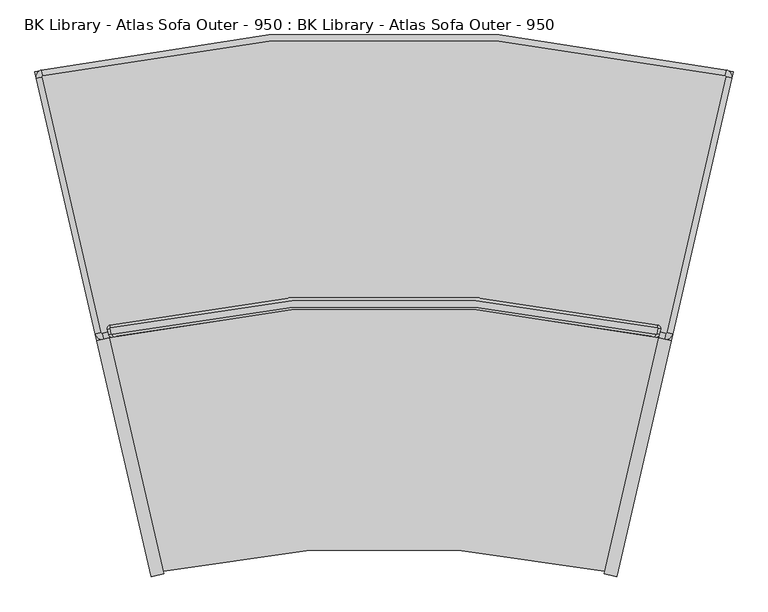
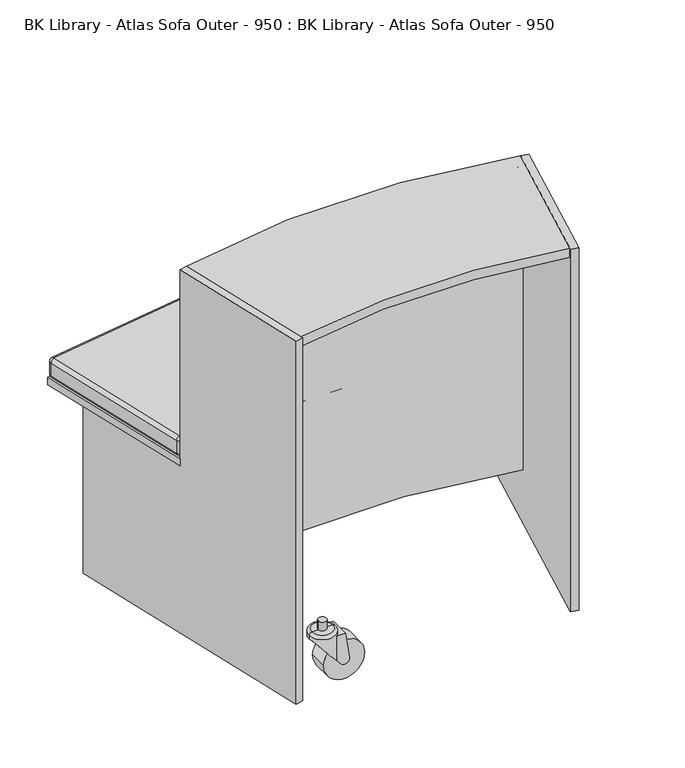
"""IFC4 building model written with IfcOpenShell, lengths in millimetres: furniture geometry, BK Library - Atlas Sofa Outer - 950 : BK Library - Atlas Sofa Outer - 950."""

from ifc_helpers import new_model, si_unit, point, frame, frame_2d, origin, place, context, project, spatial, polyline, circle_curve, ellipse_curve, trimmed, segment, composite_curve, outline, extrude, source, transform, mapped, element, save
from ifc_brep_helpers import plane_surface, cylinder_surface, revolved_surface, advanced_brep


def bk_library_atlas_sofa_outer_950_bk_library_atlas_sofa_outer_a1be0d46(model_context):
    return source(origin(), model_context, "Body", "SolidModel", [
        advanced_brep(
        [(403.7139871, 34.2467546, 912.6999998), (404.9104332, 34.9971014, 912.6999998), (406.7463468, 42.9588262, 912.6999998), (405.9919545, 44.1590138, 912.6999998), (-405.9919545, 44.1590138, 912.6999998), (-406.7463468, 42.9588262, 912.6999998), (-404.9104332, 34.9971014, 912.6999998), (-403.7139871, 34.2467546, 912.6999998), (404.9104332, 34.9971014, 512.6999998), (403.7139871, 34.2467546, 512.6999998), (-403.7139871, 34.2467546, 512.6999998), (-404.9104332, 34.9971014, 512.6999998), (-406.7463468, 42.9588262, 512.6999998), (-405.9919545, 44.1590138, 512.6999998), (405.9919545, 44.1590138, 512.6999998), (406.7463468, 42.9588262, 512.6999998), (408.8081489, 34.0983176, 908.6999998), (402.8259182, 30.3465836, 908.6999998), (402.8259182, 30.3465836, 516.6999998), (408.8081489, 34.0983176, 516.6999998), (410.6440625, 42.0600424, 908.6999998), (410.6440625, 42.0600424, 516.6999998), (406.872101, 48.0609802, 908.6999998), (406.872101, 48.0609802, 516.6999998), (-406.872101, 48.0609802, 908.6999998), (-406.872101, 48.0609802, 516.6999998), (-410.6440625, 42.0600424, 908.6999998), (-410.6440625, 42.0600424, 516.6999998), (-408.8081489, 34.0983176, 908.6999998), (-408.8081489, 34.0983176, 516.6999998), (-402.8259182, 30.3465836, 908.6999998), (-402.8259182, 30.3465836, 516.6999998)],
        [
            (0, 1, circle_curve(frame((403.9360043, 35.2217973, 912.6999998), z_axis=(0.0, 0.0, 1.0), x_axis=(-0.22201720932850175, -0.9750427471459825, 0.0)), 1.0)),
            (1, 2),
            (2, 3, circle_curve(frame((405.7719179, 43.1835222, 912.6999998), z_axis=(0.0, 0.0, 1.0), x_axis=(0.9744289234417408, -0.22469595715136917, 0.0)), 1.0)),
            (3, 4, circle_curve(frame((0.0, -1755.7311313, 912.6999998), z_axis=(0.0, 0.0, 1.0), x_axis=(0.22003662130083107, 0.9754916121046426, 0.0)), 1845.1108372)),
            (4, 5, circle_curve(frame((-405.7719179, 43.1835222, 912.6999998), z_axis=(0.0, 0.0, 1.0), x_axis=(-0.22003662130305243, 0.9754916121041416, 0.0)), 1.0)),
            (5, 6),
            (6, 7, circle_curve(frame((-403.9360043, 35.2217973, 912.6999998), z_axis=(0.0, 0.0, 1.0), x_axis=(-0.97442892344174, -0.22469595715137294, 0.0)), 1.0)),
            (7, 0, circle_curve(frame((0.0, -1738.7617261, 912.6999998), z_axis=(0.0, 0.0, -1.0), x_axis=(-0.2220172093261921, 0.9750427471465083, 0.0)), 1818.3905125)),
            (8, 9, circle_curve(frame((403.9360043, 35.2217973, 512.6999998), z_axis=(0.0, 0.0, -1.0), x_axis=(-0.22201720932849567, -0.9750427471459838, 0.0)), 1.0)),
            (9, 10, circle_curve(frame((0.0, -1738.7617261, 512.6999998), z_axis=(0.0, 0.0, 1.0), x_axis=(-0.2220172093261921, 0.9750427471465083, 0.0)), 1818.3905125)),
            (10, 11, circle_curve(frame((-403.9360043, 35.2217973, 512.6999998), z_axis=(0.0, 0.0, -1.0), x_axis=(-0.97442892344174, -0.22469595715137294, 0.0)), 1.0)),
            (11, 12),
            (12, 13, circle_curve(frame((-405.7719179, 43.1835222, 512.6999998), z_axis=(0.0, 0.0, -1.0), x_axis=(-0.22003662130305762, 0.9754916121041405, 0.0)), 1.0)),
            (13, 14, circle_curve(frame((0.0, -1755.7311313, 512.6999998), z_axis=(0.0, 0.0, -1.0), x_axis=(0.22003662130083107, 0.9754916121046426, 0.0)), 1845.1108372)),
            (14, 15, circle_curve(frame((405.7719179, 43.1835222, 512.6999998), z_axis=(0.0, 0.0, -1.0), x_axis=(0.9744289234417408, -0.22469595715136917, 0.0)), 1.0)),
            (15, 8),
            (16, 17, circle_curve(frame((403.9360043, 35.2217973, 908.6999998), z_axis=(0.0, 0.0, -1.0), x_axis=(1.0, 0.0, 0.0)), 5.0)),
            (17, 18),
            (18, 19, circle_curve(frame((403.9360043, 35.2217973, 516.6999998), z_axis=(0.0, 0.0, 1.0), x_axis=(1.0, 0.0, 0.0)), 5.0)),
            (19, 16),
            (20, 16),
            (19, 21),
            (21, 20),
            (22, 20, circle_curve(frame((405.7719179, 43.1835222, 908.6999998), z_axis=(0.0, 0.0, -1.0), x_axis=(1.0, 0.0, 0.0)), 5.0)),
            (21, 23, circle_curve(frame((405.7719179, 43.1835222, 516.6999998), z_axis=(0.0, 0.0, 1.0), x_axis=(1.0, 0.0, 0.0)), 5.0)),
            (23, 22),
            (24, 22, circle_curve(frame((0.0, -1755.7311313, 908.6999998), z_axis=(0.0, 0.0, -1.0), x_axis=(1.0, 0.0, 0.0)), 1849.1108372)),
            (23, 25, circle_curve(frame((0.0, -1755.7311313, 516.6999998), z_axis=(0.0, 0.0, 1.0), x_axis=(1.0, 0.0, 0.0)), 1849.1108372)),
            (25, 24),
            (26, 24, circle_curve(frame((-405.7719179, 43.1835222, 908.6999998), z_axis=(0.0, 0.0, -1.0), x_axis=(1.0, 0.0, 0.0)), 5.0)),
            (25, 27, circle_curve(frame((-405.7719179, 43.1835222, 516.6999998), z_axis=(0.0, 0.0, 1.0), x_axis=(1.0, 0.0, 0.0)), 5.0)),
            (27, 26),
            (28, 26),
            (27, 29),
            (29, 28),
            (30, 28, circle_curve(frame((-403.9360043, 35.2217973, 908.6999998), z_axis=(0.0, 0.0, -1.0), x_axis=(1.0, 0.0, 0.0)), 5.0)),
            (29, 31, circle_curve(frame((-403.9360043, 35.2217973, 516.6999998), z_axis=(0.0, 0.0, 1.0), x_axis=(1.0, 0.0, 0.0)), 5.0)),
            (31, 30),
            (17, 30, circle_curve(frame((0.0, -1738.7617261, 908.6999998), z_axis=(0.0, 0.0, 1.0), x_axis=(1.0, 0.0, 0.0)), 1814.3905125)),
            (31, 18, circle_curve(frame((0.0, -1738.7617261, 516.6999998), z_axis=(0.0, 0.0, -1.0), x_axis=(1.0, 0.0, 0.0)), 1814.3905125)),
            (16, 1, circle_curve(frame((404.9104332, 34.9971014, 908.6999998), z_axis=(-0.22469595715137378, -0.9744289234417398, 0.0), x_axis=(-0.9744289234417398, 0.22469595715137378, 0.0)), 4.0)),
            (0, 17, circle_curve(frame((403.7139871, 34.2467546, 908.6999998), z_axis=(0.9750427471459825, -0.2220172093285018, 0.0), x_axis=(0.2220172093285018, 0.9750427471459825, 0.0)), 4.0)),
            (20, 2, circle_curve(frame((406.7463468, 42.9588262, 908.6999998), z_axis=(-0.22469595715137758, -0.974428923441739, 0.0), x_axis=(-0.974428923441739, 0.22469595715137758, 0.0)), 4.0)),
            (22, 3, circle_curve(frame((405.9919545, 44.1590138, 908.6999998), z_axis=(0.9754916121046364, -0.22003662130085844, 0.0), x_axis=(-0.22003662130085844, -0.9754916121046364, 0.0)), 4.0)),
            (24, 4, circle_curve(frame((-405.9919545, 44.1590138, 908.6999998), z_axis=(0.9754916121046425, 0.22003662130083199, 0.0), x_axis=(0.22003662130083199, -0.9754916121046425, 0.0)), 4.0)),
            (26, 5, circle_curve(frame((-406.7463468, 42.9588262, 908.6999998), z_axis=(-0.22469595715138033, 0.9744289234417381, 0.0), x_axis=(0.9744289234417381, 0.22469595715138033, 0.0)), 4.0)),
            (28, 6, circle_curve(frame((-404.9104332, 34.9971014, 908.6999998), z_axis=(-0.22469595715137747, 0.974428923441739, 0.0), x_axis=(0.974428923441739, 0.22469595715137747, 0.0)), 4.0)),
            (30, 7, circle_curve(frame((-403.7139871, 34.2467546, 908.6999998), z_axis=(-0.9750427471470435, -0.22201720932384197, 0.0), x_axis=(-0.22201720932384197, 0.9750427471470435, 0.0)), 4.0)),
            (8, 19, circle_curve(frame((404.9104332, 34.9971014, 516.6999998), z_axis=(-0.22469595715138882, -0.9744289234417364, 0.0), x_axis=(-0.9744289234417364, 0.22469595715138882, 0.0)), 4.0)),
            (18, 9, circle_curve(frame((403.7139871, 34.2467546, 516.6999998), z_axis=(0.9750427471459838, -0.22201720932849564, 0.0), x_axis=(0.22201720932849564, 0.9750427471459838, 0.0)), 4.0)),
            (15, 21, circle_curve(frame((406.7463468, 42.9588262, 516.6999998), z_axis=(-0.2246959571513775, -0.974428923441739, 0.0), x_axis=(-0.974428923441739, 0.2246959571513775, 0.0)), 4.0)),
            (14, 23, circle_curve(frame((405.9919545, 44.1590138, 516.6999998), z_axis=(0.9754916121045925, -0.2200366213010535, 0.0), x_axis=(-0.2200366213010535, -0.9754916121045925, 0.0)), 4.0)),
            (13, 25, circle_curve(frame((-405.9919545, 44.1590138, 516.6999998), z_axis=(0.9754916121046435, 0.22003662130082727, 0.0), x_axis=(0.22003662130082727, -0.9754916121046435, 0.0)), 4.0)),
            (12, 27, circle_curve(frame((-406.7463468, 42.9588262, 516.6999998), z_axis=(-0.22469595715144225, 0.974428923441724, 0.0), x_axis=(0.974428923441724, 0.22469595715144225, 0.0)), 4.0)),
            (11, 29, circle_curve(frame((-404.9104332, 34.9971014, 516.6999998), z_axis=(-0.22469595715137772, 0.974428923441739, 0.0), x_axis=(0.974428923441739, 0.22469595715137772, 0.0)), 4.0)),
            (10, 31, circle_curve(frame((-403.7139871, 34.2467546, 516.6999998), z_axis=(-0.9750427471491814, -0.22201720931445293, 0.0), x_axis=(-0.22201720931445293, 0.9750427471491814, 0.0)), 4.0)),
        ],
        [
            plane_surface(frame((408.9360043, 35.2217973, 912.6999998), z_axis=(0.0, 0.0, 1.0), x_axis=(0.0, 1.0, 0.0))),
            plane_surface(frame((408.9360043, 35.2217973, 512.6999998), z_axis=(0.0, 0.0, -1.0), x_axis=(0.0, -1.0, 0.0))),
            cylinder_surface(frame((403.9360043, 35.2217973, 512.6999998), z_axis=(0.0, 0.0, 1.0), x_axis=(1.0, 0.0, 0.0)), 5.0),
            plane_surface(frame((408.8081489, 34.0983176, 912.6999998), z_axis=(0.9744289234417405, -0.22469595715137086, 0.0), x_axis=(0.0, 0.0, -1.0))),
            cylinder_surface(frame((405.7719179, 43.1835222, 512.6999998), z_axis=(0.0, 0.0, 1.0), x_axis=(1.0, 0.0, 0.0)), 5.0),
            cylinder_surface(frame((0.0, -1755.7311313, 512.6999998), z_axis=(0.0, 0.0, 1.0), x_axis=(1.0, 0.0, 0.0)), 1849.1108372),
            cylinder_surface(frame((-405.7719179, 43.1835222, 512.6999998), z_axis=(0.0, 0.0, 1.0), x_axis=(1.0, 0.0, 0.0)), 5.0),
            plane_surface(frame((-410.6440625, 42.0600424, 912.6999998), z_axis=(-0.974428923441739, -0.2246959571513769, 0.0), x_axis=(0.0, 0.0, -1.0))),
            cylinder_surface(frame((-403.9360043, 35.2217973, 512.6999998), z_axis=(0.0, 0.0, 1.0), x_axis=(1.0, 0.0, 0.0)), 5.0),
            revolved_surface(polyline([(1814.3905125, -1738.7617261, 516.6999998), (1814.3905125, -1738.7617261, 908.6999998)]), (0.0, -1738.7617261, 512.6999998), (0.0, 0.0, -1.0)),
            revolved_surface(trimmed(ellipse_curve(frame((403.7139871, 34.2467546, 908.6999998), z_axis=(-0.9750427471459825, 0.2220172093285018, 0.0), x_axis=(0.2220172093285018, 0.9750427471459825, 0.0)), 4.0, 4.0), [point((402.8259182, 30.3465836, 908.6999998))], [point((403.7139871, 34.2467546, 912.6999998))], True, "CARTESIAN"), (403.9360043, 35.2217973, 0.0), (0.0, 0.0, 1.0)),
            cylinder_surface(frame((404.9104332, 34.9971014, 908.6999998), z_axis=(0.22469595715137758, 0.974428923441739, 0.0), x_axis=(-0.974428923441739, 0.22469595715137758, 0.0)), 4.0),
            revolved_surface(trimmed(ellipse_curve(frame((406.7463468, 42.9588262, 908.6999998), z_axis=(-0.22469595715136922, -0.9744289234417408, 0.0), x_axis=(-0.9744289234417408, 0.22469595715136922, 0.0)), 4.0, 4.0), [point((410.6440625, 42.0600424, 908.6999998))], [point((406.7463468, 42.9588262, 912.6999998))], True, "CARTESIAN"), (405.7719179, 43.1835222, 0.0), (0.0, 0.0, 1.0)),
            revolved_surface(trimmed(ellipse_curve(frame((405.9919545, 44.1590138, 908.6999998), z_axis=(0.9754916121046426, -0.2200366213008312, 0.0), x_axis=(-0.2200366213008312, -0.9754916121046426, 0.0)), 4.0, 4.0), [point((406.872101, 48.0609802, 908.6999998))], [point((405.9919545, 44.1590138, 912.6999998))], True, "CARTESIAN"), (0.0, -1755.7311313, 0.0), (0.0, 0.0, 1.0)),
            revolved_surface(trimmed(ellipse_curve(frame((-405.9919545, 44.1590138, 908.6999998), z_axis=(0.9754916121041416, 0.22003662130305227, 0.0), x_axis=(0.22003662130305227, -0.9754916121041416, 0.0)), 4.0, 4.0), [point((-406.872101, 48.0609802, 908.6999998))], [point((-405.9919545, 44.1590138, 912.6999998))], True, "CARTESIAN"), (-405.7719179, 43.1835222, 0.0), (0.0, 0.0, 1.0)),
            cylinder_surface(frame((-406.7463468, 42.9588262, 908.6999998), z_axis=(0.22469595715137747, -0.974428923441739, 0.0), x_axis=(0.974428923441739, 0.22469595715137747, 0.0)), 4.0),
            revolved_surface(trimmed(ellipse_curve(frame((-404.9104332, 34.9971014, 908.6999998), z_axis=(-0.2246959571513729, 0.97442892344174, 0.0), x_axis=(0.97442892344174, 0.2246959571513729, 0.0)), 4.0, 4.0), [point((-408.8081489, 34.0983176, 908.6999998))], [point((-404.9104332, 34.9971014, 912.6999998))], True, "CARTESIAN"), (-403.9360043, 35.2217973, 0.0), (0.0, 0.0, 1.0)),
            revolved_surface(trimmed(ellipse_curve(frame((-403.7139871, 34.2467546, 908.6999998), z_axis=(-0.9750427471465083, -0.22201720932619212, 0.0), x_axis=(-0.22201720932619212, 0.9750427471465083, 0.0)), 4.0, 4.0), [point((-402.8259182, 30.3465836, 908.6999998))], [point((-403.7139871, 34.2467546, 912.6999998))], True, "CARTESIAN"), (0.0, -1738.7617261, 0.0), (0.0, 0.0, -1.0)),
            revolved_surface(trimmed(ellipse_curve(frame((403.7139871, 34.2467546, 516.6999998), z_axis=(-0.9750427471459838, 0.22201720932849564, 0.0), x_axis=(0.22201720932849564, 0.9750427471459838, 0.0)), 4.0, 4.0), [point((403.7139871, 34.2467546, 512.6999998))], [point((402.8259182, 30.3465836, 516.6999998))], True, "CARTESIAN"), (403.9360043, 35.2217973, 1425.3999996), (0.0, 0.0, 1.0)),
            cylinder_surface(frame((404.9104332, 34.9971014, 516.6999998), z_axis=(0.2246959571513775, 0.974428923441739, 0.0), x_axis=(-0.974428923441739, 0.2246959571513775, 0.0)), 4.0),
            revolved_surface(trimmed(ellipse_curve(frame((406.7463468, 42.9588262, 516.6999998), z_axis=(-0.22469595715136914, -0.9744289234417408, 0.0), x_axis=(-0.9744289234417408, 0.22469595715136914, 0.0)), 4.0, 4.0), [point((406.7463468, 42.9588262, 512.6999998))], [point((410.6440625, 42.0600424, 516.6999998))], True, "CARTESIAN"), (405.7719179, 43.1835222, 1425.3999996), (0.0, 0.0, 1.0)),
            revolved_surface(trimmed(ellipse_curve(frame((405.9919545, 44.1590138, 516.6999998), z_axis=(0.9754916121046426, -0.22003662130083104, 0.0), x_axis=(-0.22003662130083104, -0.9754916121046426, 0.0)), 4.0, 4.0), [point((405.9919545, 44.1590138, 512.6999998))], [point((406.872101, 48.0609802, 516.6999998))], True, "CARTESIAN"), (0.0, -1755.7311313, 1425.3999996), (0.0, 0.0, 1.0)),
            revolved_surface(trimmed(ellipse_curve(frame((-405.9919545, 44.1590138, 516.6999998), z_axis=(0.9754916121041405, 0.2200366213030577, 0.0), x_axis=(0.2200366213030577, -0.9754916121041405, 0.0)), 4.0, 4.0), [point((-405.9919545, 44.1590138, 512.6999998))], [point((-406.872101, 48.0609802, 516.6999998))], True, "CARTESIAN"), (-405.7719179, 43.1835222, 1425.3999996), (0.0, 0.0, 1.0)),
            cylinder_surface(frame((-406.7463468, 42.9588262, 516.6999998), z_axis=(0.22469595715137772, -0.974428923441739, 0.0), x_axis=(0.974428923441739, 0.22469595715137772, 0.0)), 4.0),
            revolved_surface(trimmed(ellipse_curve(frame((-404.9104332, 34.9971014, 516.6999998), z_axis=(-0.22469595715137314, 0.97442892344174, 0.0), x_axis=(0.97442892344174, 0.22469595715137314, 0.0)), 4.0, 4.0), [point((-404.9104332, 34.9971014, 512.6999998))], [point((-408.8081489, 34.0983176, 516.6999998))], True, "CARTESIAN"), (-403.9360043, 35.2217973, 1425.3999996), (0.0, 0.0, 1.0)),
            revolved_surface(trimmed(ellipse_curve(frame((-403.7139871, 34.2467546, 516.6999998), z_axis=(-0.9750427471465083, -0.22201720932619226, 0.0), x_axis=(-0.22201720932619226, 0.9750427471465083, 0.0)), 4.0, 4.0), [point((-403.7139871, 34.2467546, 512.6999998))], [point((-402.8259182, 30.3465836, 516.6999998))], True, "CARTESIAN"), (0.0, -1738.7617261, 1425.3999996), (0.0, 0.0, -1.0)),
        ],
        [
            (0, [[1, 2, 3, 4, 5, 6, 7, 8]]),
            (1, [[9, 10, 11, 12, 13, 14, 15, 16]]),
            (2, [[17, 18, 19, 20]]),
            (3, [[21, -20, 22, 23]]),
            (4, [[24, -23, 25, 26]]),
            (5, [[27, -26, 28, 29]]),
            (6, [[30, -29, 31, 32]]),
            (7, [[33, -32, 34, 35]]),
            (8, [[36, -35, 37, 38]]),
            (9, [[39, -38, 40, -18]]),
            (10, [[41, -1, 42, -17]]),
            (11, [[-41, -21, 43, -2]]),
            (12, [[-43, -24, 44, -3]]),
            (13, [[-44, -27, 45, -4]]),
            (14, [[-45, -30, 46, -5]]),
            (15, [[-46, -33, 47, -6]]),
            (16, [[-47, -36, 48, -7]]),
            (17, [[-42, -8, -48, -39]]),
            (18, [[49, -19, 50, -9]]),
            (19, [[-49, -16, 51, -22]]),
            (20, [[-51, -15, 52, -25]]),
            (21, [[-52, -14, 53, -28]]),
            (22, [[-53, -13, 54, -31]]),
            (23, [[-54, -12, 55, -34]]),
            (24, [[-55, -11, 56, -37]]),
            (25, [[-50, -40, -56, -10]]),
        ],
    ),
        advanced_brep(
        [(-419.6774617, 36.7301974, 512.6999998), (-418.4783368, 35.9804644, 512.6999998), (-409.7084765, 38.002728, 512.6999998), (409.7084765, 38.002728, 512.6999998), (418.4783368, 35.9804644, 512.6999998), (419.6774617, 36.7301974, 512.6999998), (507.3202, 416.806547, 512.6999998), (506.5732105, 418.0050352, 512.6999998), (-506.5732105, 418.0050352, 512.6999998), (-507.3202, 416.806547, 512.6999998), (-418.4783368, 35.9804644, 462.6999998), (-419.6774617, 36.7301974, 462.6999998), (-507.3202, 416.806547, 462.6999998), (-506.5732105, 418.0050352, 462.6999998), (506.5732105, 418.0050352, 462.6999998), (507.3202, 416.806547, 462.6999998), (419.6774617, 36.7301974, 462.6999998), (418.4783368, 35.9804644, 462.6999998), (409.7084765, 38.002728, 462.6999998), (-409.7084765, 38.002728, 462.6999998), (-516.0900603, 414.7842834, 503.6999998), (-508.6201649, 426.7691653, 503.6999998), (-508.6201649, 426.7691653, 471.6999998), (-516.0900603, 414.7842834, 471.6999998), (-428.447322, 34.7079338, 503.6999998), (-428.447322, 34.7079338, 471.6999998), (-416.4560732, 27.2106041, 503.6999998), (-416.4560732, 27.2106041, 471.6999998), (-407.6862129, 29.2328677, 503.6999998), (-407.6862129, 29.2328677, 471.6999998), (407.6862129, 29.2328677, 503.6999998), (407.6862129, 29.2328677, 471.6999998), (416.4560732, 27.2106041, 503.6999998), (416.4560732, 27.2106041, 471.6999998), (428.447322, 34.7079338, 503.6999998), (428.447322, 34.7079338, 471.6999998), (516.0900603, 414.7842834, 503.6999998), (516.0900603, 414.7842834, 471.6999998), (508.6201649, 426.7691653, 503.6999998), (508.6201649, 426.7691653, 471.6999998)],
        [
            (0, 1, circle_curve(frame((-418.7030327, 36.9548933, 512.6999998), z_axis=(0.0, 0.0, 1.0), x_axis=(-0.9744289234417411, -0.22469595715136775, 0.0)), 1.0)),
            (1, 2),
            (2, 3, circle_curve(frame((0.0, -1738.7617261, 512.6999998), z_axis=(0.0, 0.0, -1.0), x_axis=(-0.22469595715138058, 0.9744289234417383, 0.0)), 1823.3905125)),
            (3, 4),
            (4, 5, circle_curve(frame((418.7030327, 36.9548933, 512.6999998), z_axis=(0.0, 0.0, 1.0), x_axis=(-0.22469595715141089, -0.9744289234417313, 0.0)), 1.0)),
            (5, 6),
            (6, 7, circle_curve(frame((506.3457711, 417.0312429, 512.6999998), z_axis=(0.0, 0.0, 1.0), x_axis=(0.9744289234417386, -0.2246959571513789, 0.0)), 1.0)),
            (7, 8, circle_curve(frame((0.0, -1750.9115951, 512.6999998), z_axis=(0.0, 0.0, 1.0), x_axis=(0.22743938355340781, 0.9737922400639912, 0.0)), 2227.2888826)),
            (8, 9, circle_curve(frame((-506.3457711, 417.0312429, 512.6999998), z_axis=(0.0, 0.0, 1.0), x_axis=(-0.22743938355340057, 0.9737922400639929, 0.0)), 1.0)),
            (9, 0),
            (10, 11, circle_curve(frame((-418.7030327, 36.9548933, 462.6999998), z_axis=(0.0, 0.0, -1.0), x_axis=(-0.9744289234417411, -0.22469595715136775, 0.0)), 1.0)),
            (11, 12),
            (12, 13, circle_curve(frame((-506.3457711, 417.0312429, 462.6999998), z_axis=(0.0, 0.0, -1.0), x_axis=(-0.22743938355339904, 0.9737922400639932, 0.0)), 1.0)),
            (13, 14, circle_curve(frame((0.0, -1750.9115951, 462.6999998), z_axis=(0.0, 0.0, -1.0), x_axis=(0.22743938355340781, 0.9737922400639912, 0.0)), 2227.2888826)),
            (14, 15, circle_curve(frame((506.3457711, 417.0312429, 462.6999998), z_axis=(0.0, 0.0, -1.0), x_axis=(0.9744289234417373, -0.224695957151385, 0.0)), 1.0)),
            (15, 16),
            (16, 17, circle_curve(frame((418.7030327, 36.9548933, 462.6999998), z_axis=(0.0, 0.0, -1.0), x_axis=(-0.22469595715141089, -0.9744289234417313, 0.0)), 1.0)),
            (17, 18),
            (18, 19, circle_curve(frame((0.0, -1738.7617261, 462.6999998), z_axis=(0.0, 0.0, 1.0), x_axis=(-0.22469595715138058, 0.9744289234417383, 0.0)), 1823.3905125)),
            (19, 10),
            (20, 21, circle_curve(frame((-506.3457711, 417.0312429, 503.6999998), z_axis=(0.0, 0.0, -1.0), x_axis=(1.0, 0.0, 0.0)), 10.0)),
            (21, 22),
            (22, 23, circle_curve(frame((-506.3457711, 417.0312429, 471.6999998), z_axis=(0.0, 0.0, 1.0), x_axis=(1.0, 0.0, 0.0)), 10.0)),
            (23, 20),
            (24, 20),
            (23, 25),
            (25, 24),
            (26, 24, circle_curve(frame((-418.7030327, 36.9548933, 503.6999998), z_axis=(0.0, 0.0, -1.0), x_axis=(1.0, 0.0, 0.0)), 10.0)),
            (25, 27, circle_curve(frame((-418.7030327, 36.9548933, 471.6999998), z_axis=(0.0, 0.0, 1.0), x_axis=(1.0, 0.0, 0.0)), 10.0)),
            (27, 26),
            (28, 26),
            (27, 29),
            (29, 28),
            (30, 28, circle_curve(frame((0.0, -1738.7617261, 503.6999998), z_axis=(0.0, 0.0, 1.0), x_axis=(1.0, 0.0, 0.0)), 1814.3905125)),
            (29, 31, circle_curve(frame((0.0, -1738.7617261, 471.6999998), z_axis=(0.0, 0.0, -1.0), x_axis=(1.0, 0.0, 0.0)), 1814.3905125)),
            (31, 30),
            (32, 30),
            (31, 33),
            (33, 32),
            (34, 32, circle_curve(frame((418.7030327, 36.9548933, 503.6999998), z_axis=(0.0, 0.0, -1.0), x_axis=(1.0, 0.0, 0.0)), 10.0)),
            (33, 35, circle_curve(frame((418.7030327, 36.9548933, 471.6999998), z_axis=(0.0, 0.0, 1.0), x_axis=(1.0, 0.0, 0.0)), 10.0)),
            (35, 34),
            (36, 34),
            (35, 37),
            (37, 36),
            (38, 36, circle_curve(frame((506.3457711, 417.0312429, 503.6999998), z_axis=(0.0, 0.0, -1.0), x_axis=(1.0, 0.0, 0.0)), 10.0)),
            (37, 39, circle_curve(frame((506.3457711, 417.0312429, 471.6999998), z_axis=(0.0, 0.0, 1.0), x_axis=(1.0, 0.0, 0.0)), 10.0)),
            (39, 38),
            (21, 38, circle_curve(frame((0.0, -1750.9115951, 503.6999998), z_axis=(0.0, 0.0, -1.0), x_axis=(1.0, 0.0, 0.0)), 2236.2888826)),
            (39, 22, circle_curve(frame((0.0, -1750.9115951, 471.6999998), z_axis=(0.0, 0.0, 1.0), x_axis=(1.0, 0.0, 0.0)), 2236.2888826)),
            (26, 1, circle_curve(frame((-418.4783368, 35.9804644, 503.6999998), z_axis=(-0.9744289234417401, -0.22469595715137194, 0.0), x_axis=(-0.22469595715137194, 0.9744289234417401, 0.0)), 9.0)),
            (0, 24, circle_curve(frame((-419.6774617, 36.7301974, 503.6999998), z_axis=(0.22469595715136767, -0.9744289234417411, 0.0), x_axis=(0.9744289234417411, 0.22469595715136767, 0.0)), 9.0)),
            (28, 2, circle_curve(frame((-409.7084765, 38.002728, 503.6999998), z_axis=(-0.9744289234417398, -0.2246959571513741, 0.0), x_axis=(-0.2246959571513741, 0.9744289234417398, 0.0)), 9.0)),
            (30, 3, circle_curve(frame((409.7084765, 38.002728, 503.6999998), z_axis=(-0.9744289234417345, 0.22469595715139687, 0.0), x_axis=(0.22469595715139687, 0.9744289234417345, 0.0)), 9.0)),
            (32, 4, circle_curve(frame((418.4783368, 35.9804644, 503.6999998), z_axis=(-0.974428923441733, 0.22469595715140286, 0.0), x_axis=(0.22469595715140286, 0.974428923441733, 0.0)), 9.0)),
            (34, 5, circle_curve(frame((419.6774617, 36.7301974, 503.6999998), z_axis=(-0.22469595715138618, -0.9744289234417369, 0.0), x_axis=(-0.9744289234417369, 0.22469595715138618, 0.0)), 9.0)),
            (36, 6, circle_curve(frame((507.3202, 416.806547, 503.6999998), z_axis=(-0.22469595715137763, -0.9744289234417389, 0.0), x_axis=(-0.9744289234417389, 0.22469595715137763, 0.0)), 9.0)),
            (38, 7, circle_curve(frame((506.5732105, 418.0050352, 503.6999998), z_axis=(0.9737922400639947, -0.22743938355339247, 0.0), x_axis=(-0.22743938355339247, -0.9737922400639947, 0.0)), 9.0)),
            (21, 8, circle_curve(frame((-506.5732105, 418.0050352, 503.6999998), z_axis=(0.9737922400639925, 0.22743938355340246, 0.0), x_axis=(0.22743938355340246, -0.9737922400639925, 0.0)), 9.0)),
            (20, 9, circle_curve(frame((-507.3202, 416.806547, 503.6999998), z_axis=(-0.22469595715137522, 0.9744289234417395, 0.0), x_axis=(0.9744289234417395, 0.22469595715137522, 0.0)), 9.0)),
            (10, 27, circle_curve(frame((-418.4783368, 35.9804644, 471.6999998), z_axis=(-0.9744289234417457, -0.22469595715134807, 0.0), x_axis=(-0.22469595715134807, 0.9744289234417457, 0.0)), 9.0)),
            (25, 11, circle_curve(frame((-419.6774617, 36.7301974, 471.6999998), z_axis=(0.22469595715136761, -0.9744289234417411, 0.0), x_axis=(0.9744289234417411, 0.22469595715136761, 0.0)), 9.0)),
            (19, 29, circle_curve(frame((-409.7084765, 38.002728, 471.6999998), z_axis=(-0.9744289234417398, -0.224695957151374, 0.0), x_axis=(-0.224695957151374, 0.9744289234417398, 0.0)), 9.0)),
            (18, 31, circle_curve(frame((409.7084765, 38.002728, 471.6999998), z_axis=(-0.9744289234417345, 0.22469595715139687, 0.0), x_axis=(0.22469595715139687, 0.9744289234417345, 0.0)), 9.0)),
            (17, 33, circle_curve(frame((418.4783368, 35.9804644, 471.6999998), z_axis=(-0.9744289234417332, 0.22469595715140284, 0.0), x_axis=(0.22469595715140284, 0.9744289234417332, 0.0)), 9.0)),
            (16, 35, circle_curve(frame((419.6774617, 36.7301974, 471.6999998), z_axis=(-0.22469595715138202, -0.9744289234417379, 0.0), x_axis=(-0.9744289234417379, 0.22469595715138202, 0.0)), 9.0)),
            (15, 37, circle_curve(frame((507.3202, 416.806547, 471.6999998), z_axis=(-0.22469595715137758, -0.9744289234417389, 0.0), x_axis=(-0.9744289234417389, 0.22469595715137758, 0.0)), 9.0)),
            (14, 39, circle_curve(frame((506.5732105, 418.0050352, 471.6999998), z_axis=(0.9737922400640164, -0.2274393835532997, 0.0), x_axis=(-0.2274393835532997, -0.9737922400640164, 0.0)), 9.0)),
            (13, 22, circle_curve(frame((-506.5732105, 418.0050352, 471.6999998), z_axis=(0.9737922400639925, 0.22743938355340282, 0.0), x_axis=(0.22743938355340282, -0.9737922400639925, 0.0)), 9.0)),
            (12, 23, circle_curve(frame((-507.3202, 416.806547, 471.6999998), z_axis=(-0.2246959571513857, 0.974428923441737, 0.0), x_axis=(0.974428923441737, 0.2246959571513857, 0.0)), 9.0)),
        ],
        [
            plane_surface(frame((-496.3457711, 417.0312429, 512.6999998), z_axis=(0.0, 0.0, 1.0), x_axis=(0.0, 1.0, 0.0))),
            plane_surface(frame((-496.3457711, 417.0312429, 462.6999998), z_axis=(0.0, 0.0, -1.0), x_axis=(0.0, -1.0, 0.0))),
            cylinder_surface(frame((-506.3457711, 417.0312429, 462.6999998), z_axis=(0.0, 0.0, 1.0), x_axis=(1.0, 0.0, 0.0)), 10.0),
            plane_surface(frame((-516.0900603, 414.7842834, 512.6999998), z_axis=(-0.9744289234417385, -0.22469595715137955, 0.0), x_axis=(0.0, 0.0, -1.0))),
            cylinder_surface(frame((-418.7030327, 36.9548933, 462.6999998), z_axis=(0.0, 0.0, 1.0), x_axis=(1.0, 0.0, 0.0)), 10.0),
            plane_surface(frame((-416.4560732, 27.2106041, 512.6999998), z_axis=(0.22469595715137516, -0.9744289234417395, 0.0), x_axis=(0.0, 0.0, -1.0))),
            revolved_surface(polyline([(1814.3905125, -1738.7617261, 471.6999998), (1814.3905125, -1738.7617261, 503.6999998)]), (0.0, -1738.7617261, 462.6999998), (0.0, 0.0, -1.0)),
            plane_surface(frame((407.6862129, 29.2328677, 512.6999998), z_axis=(-0.22469595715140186, -0.9744289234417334, 0.0), x_axis=(0.0, 0.0, -1.0))),
            cylinder_surface(frame((418.7030327, 36.9548933, 462.6999998), z_axis=(0.0, 0.0, 1.0), x_axis=(1.0, 0.0, 0.0)), 10.0),
            plane_surface(frame((428.447322, 34.7079338, 512.6999998), z_axis=(0.9744289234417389, -0.2246959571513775, 0.0), x_axis=(0.0, 0.0, -1.0))),
            cylinder_surface(frame((506.3457711, 417.0312429, 462.6999998), z_axis=(0.0, 0.0, 1.0), x_axis=(1.0, 0.0, 0.0)), 10.0),
            cylinder_surface(frame((0.0, -1750.9115951, 462.6999998), z_axis=(0.0, 0.0, 1.0), x_axis=(1.0, 0.0, 0.0)), 2236.2888826),
            revolved_surface(trimmed(ellipse_curve(frame((-419.6774617, 36.7301974, 503.6999998), z_axis=(-0.22469595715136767, 0.9744289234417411, 0.0), x_axis=(0.9744289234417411, 0.22469595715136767, 0.0)), 9.0, 9.0), [point((-428.447322, 34.7079338, 503.6999998))], [point((-419.6774617, 36.7301974, 512.6999998))], True, "CARTESIAN"), (-418.7030327, 36.9548933, 0.0), (0.0, 0.0, 1.0)),
            cylinder_surface(frame((-418.4783368, 35.9804644, 503.6999998), z_axis=(0.9744289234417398, 0.2246959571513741, 0.0), x_axis=(-0.2246959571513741, 0.9744289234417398, 0.0)), 9.0),
            revolved_surface(trimmed(ellipse_curve(frame((-409.7084765, 38.002728, 503.6999998), z_axis=(-0.9744289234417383, -0.22469595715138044, 0.0), x_axis=(-0.22469595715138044, 0.9744289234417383, 0.0)), 9.0, 9.0), [point((-407.6862129, 29.2328677, 503.6999998))], [point((-409.7084765, 38.002728, 512.6999998))], True, "CARTESIAN"), (0.0, -1738.7617261, 0.0), (0.0, 0.0, -1.0)),
            cylinder_surface(frame((409.7084765, 38.002728, 503.6999998), z_axis=(0.974428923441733, -0.22469595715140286, 0.0), x_axis=(0.22469595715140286, 0.974428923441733, 0.0)), 9.0),
            revolved_surface(trimmed(ellipse_curve(frame((418.4783368, 35.9804644, 503.6999998), z_axis=(-0.9744289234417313, 0.224695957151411, 0.0), x_axis=(0.224695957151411, 0.9744289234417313, 0.0)), 9.0, 9.0), [point((416.4560732, 27.2106041, 503.6999998))], [point((418.4783368, 35.9804644, 512.6999998))], True, "CARTESIAN"), (418.7030327, 36.9548933, 0.0), (0.0, 0.0, 1.0)),
            cylinder_surface(frame((419.6774617, 36.7301974, 503.6999998), z_axis=(0.22469595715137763, 0.9744289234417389, 0.0), x_axis=(-0.9744289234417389, 0.22469595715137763, 0.0)), 9.0),
            revolved_surface(trimmed(ellipse_curve(frame((507.3202, 416.806547, 503.6999998), z_axis=(-0.2246959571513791, -0.9744289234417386, 0.0), x_axis=(-0.9744289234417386, 0.2246959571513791, 0.0)), 9.0, 9.0), [point((516.0900603, 414.7842834, 503.6999998))], [point((507.3202, 416.806547, 512.6999998))], True, "CARTESIAN"), (506.3457711, 417.0312429, 0.0), (0.0, 0.0, 1.0)),
            revolved_surface(trimmed(ellipse_curve(frame((506.5732105, 418.0050352, 503.6999998), z_axis=(0.9737922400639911, -0.22743938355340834, 0.0), x_axis=(-0.22743938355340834, -0.9737922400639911, 0.0)), 9.0, 9.0), [point((508.6201649, 426.7691653, 503.6999998))], [point((506.5732105, 418.0050352, 512.6999998))], True, "CARTESIAN"), (0.0, -1750.9115951, 0.0), (0.0, 0.0, 1.0)),
            revolved_surface(trimmed(ellipse_curve(frame((-506.5732105, 418.0050352, 503.6999998), z_axis=(0.973792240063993, 0.22743938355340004, 0.0), x_axis=(0.22743938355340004, -0.973792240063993, 0.0)), 9.0, 9.0), [point((-508.6201649, 426.7691653, 503.6999998))], [point((-506.5732105, 418.0050352, 512.6999998))], True, "CARTESIAN"), (-506.3457711, 417.0312429, 0.0), (0.0, 0.0, 1.0)),
            cylinder_surface(frame((-507.3202, 416.806547, 503.6999998), z_axis=(0.22469595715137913, -0.9744289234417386, 0.0), x_axis=(0.9744289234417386, 0.22469595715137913, 0.0)), 9.0),
            revolved_surface(trimmed(ellipse_curve(frame((-419.6774617, 36.7301974, 471.6999998), z_axis=(-0.22469595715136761, 0.9744289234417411, 0.0), x_axis=(0.9744289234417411, 0.22469595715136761, 0.0)), 9.0, 9.0), [point((-419.6774617, 36.7301974, 462.6999998))], [point((-428.447322, 34.7079338, 471.6999998))], True, "CARTESIAN"), (-418.7030327, 36.9548933, 975.3999996), (0.0, 0.0, 1.0)),
            cylinder_surface(frame((-418.4783368, 35.9804644, 471.6999998), z_axis=(0.9744289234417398, 0.224695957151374, 0.0), x_axis=(-0.224695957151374, 0.9744289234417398, 0.0)), 9.0),
            revolved_surface(trimmed(ellipse_curve(frame((-409.7084765, 38.002728, 471.6999998), z_axis=(-0.9744289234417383, -0.22469595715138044, 0.0), x_axis=(-0.22469595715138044, 0.9744289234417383, 0.0)), 9.0, 9.0), [point((-409.7084765, 38.002728, 462.6999998))], [point((-407.6862129, 29.2328677, 471.6999998))], True, "CARTESIAN"), (0.0, -1738.7617261, 975.3999996), (0.0, 0.0, -1.0)),
            cylinder_surface(frame((409.7084765, 38.002728, 471.6999998), z_axis=(0.9744289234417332, -0.22469595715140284, 0.0), x_axis=(0.22469595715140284, 0.9744289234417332, 0.0)), 9.0),
            revolved_surface(trimmed(ellipse_curve(frame((418.4783368, 35.9804644, 471.6999998), z_axis=(-0.9744289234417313, 0.22469595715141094, 0.0), x_axis=(0.22469595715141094, 0.9744289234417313, 0.0)), 9.0, 9.0), [point((418.4783368, 35.9804644, 462.6999998))], [point((416.4560732, 27.2106041, 471.6999998))], True, "CARTESIAN"), (418.7030327, 36.9548933, 975.3999996), (0.0, 0.0, 1.0)),
            cylinder_surface(frame((419.6774617, 36.7301974, 471.6999998), z_axis=(0.22469595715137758, 0.9744289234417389, 0.0), x_axis=(-0.9744289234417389, 0.22469595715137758, 0.0)), 9.0),
            revolved_surface(trimmed(ellipse_curve(frame((507.3202, 416.806547, 471.6999998), z_axis=(-0.22469595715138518, -0.9744289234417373, 0.0), x_axis=(-0.9744289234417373, 0.22469595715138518, 0.0)), 9.0, 9.0), [point((507.3202, 416.806547, 462.6999998))], [point((516.0900603, 414.7842834, 471.6999998))], True, "CARTESIAN"), (506.3457711, 417.0312429, 975.3999996), (0.0, 0.0, 1.0)),
            revolved_surface(trimmed(ellipse_curve(frame((506.5732105, 418.0050352, 471.6999998), z_axis=(0.9737922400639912, -0.227439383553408, 0.0), x_axis=(-0.227439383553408, -0.9737922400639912, 0.0)), 9.0, 9.0), [point((506.5732105, 418.0050352, 462.6999998))], [point((508.6201649, 426.7691653, 471.6999998))], True, "CARTESIAN"), (0.0, -1750.9115951, 975.3999996), (0.0, 0.0, 1.0)),
            revolved_surface(trimmed(ellipse_curve(frame((-506.5732105, 418.0050352, 471.6999998), z_axis=(0.9737922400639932, 0.22743938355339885, 0.0), x_axis=(0.22743938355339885, -0.9737922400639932, 0.0)), 9.0, 9.0), [point((-506.5732105, 418.0050352, 462.6999998))], [point((-508.6201649, 426.7691653, 471.6999998))], True, "CARTESIAN"), (-506.3457711, 417.0312429, 975.3999996), (0.0, 0.0, 1.0)),
            cylinder_surface(frame((-507.3202, 416.806547, 471.6999998), z_axis=(0.22469595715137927, -0.9744289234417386, 0.0), x_axis=(0.9744289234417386, 0.22469595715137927, 0.0)), 9.0),
        ],
        [
            (0, [[1, 2, 3, 4, 5, 6, 7, 8, 9, 10]]),
            (1, [[11, 12, 13, 14, 15, 16, 17, 18, 19, 20]]),
            (2, [[21, 22, 23, 24]]),
            (3, [[25, -24, 26, 27]]),
            (4, [[28, -27, 29, 30]]),
            (5, [[31, -30, 32, 33]]),
            (6, [[34, -33, 35, 36]]),
            (7, [[37, -36, 38, 39]]),
            (8, [[40, -39, 41, 42]]),
            (9, [[43, -42, 44, 45]]),
            (10, [[46, -45, 47, 48]]),
            (11, [[49, -48, 50, -22]]),
            (12, [[51, -1, 52, -28]]),
            (13, [[-51, -31, 53, -2]]),
            (14, [[-53, -34, 54, -3]]),
            (15, [[-54, -37, 55, -4]]),
            (16, [[-55, -40, 56, -5]]),
            (17, [[-56, -43, 57, -6]]),
            (18, [[-57, -46, 58, -7]]),
            (19, [[-58, -49, 59, -8]]),
            (20, [[-59, -21, 60, -9]]),
            (21, [[-52, -10, -60, -25]]),
            (22, [[61, -29, 62, -11]]),
            (23, [[-61, -20, 63, -32]]),
            (24, [[-63, -19, 64, -35]]),
            (25, [[-64, -18, 65, -38]]),
            (26, [[-65, -17, 66, -41]]),
            (27, [[-66, -16, 67, -44]]),
            (28, [[-67, -15, 68, -47]]),
            (29, [[-68, -14, 69, -50]]),
            (30, [[-69, -13, 70, -23]]),
            (31, [[-62, -26, -70, -12]]),
        ],
    ),
        extrude(outline(composite_curve([segment(polyline([(-471.6464524, 306.6063822), (-472.1675106, 308.8660322)]), True, "CONTINUOUS"), segment(trimmed(circle_curve(frame_2d((0.0, -1661.6120987)), 2026.2591696), [point((-472.1675106, 308.8660322))], [point((472.1675106, 308.8660322))], False, "CARTESIAN"), True, "CONTINUOUS"), segment(polyline([(472.1675106, 308.8660322), (471.6337307, 306.5512126)]), True, "CONTINUOUS"), segment(trimmed(circle_curve(frame_2d((-0.1289567, -1789.54304)), 2148.52767), [point((471.6337307, 306.5512126))], [point((-471.6464524, 306.6063822))], True, "CARTESIAN"), True, "CONTINUOUS")], self_intersect=False)), frame((0.0, 0.0, 126.2197818), z_axis=(0.0, 0.0, 1.0), x_axis=(1.0, 0.0, 0.0)), (0.0, 0.0, 1.0), 317.480218),
        extrude(outline(composite_curve([segment(polyline([(426.2003624, 24.9636445), (407.6862129, 29.2328677)]), True, "CONTINUOUS"), segment(trimmed(circle_curve(frame_2d((0.0, -1738.7617261)), 1814.3905125), [point((407.6862129, 29.2328677))], [point((-407.6862129, 29.2328677))], True, "CARTESIAN"), True, "CONTINUOUS"), segment(polyline([(-407.6862129, 29.2328677), (-426.2003624, 24.9636445), (-518.3257048, 424.4795031)]), True, "CONTINUOUS"), segment(trimmed(circle_curve(frame_2d((0.0, -1750.9115951)), 2236.2888826), [point((-518.3257048, 424.4795031))], [point((518.3257048, 424.4795031))], False, "CARTESIAN"), True, "CONTINUOUS"), segment(polyline([(518.3257048, 424.4795031), (426.2003624, 24.9636445)]), True, "CONTINUOUS")], self_intersect=False)), frame((0.0, 0.0, 443.6999998), z_axis=(0.0, 0.0, 1.0), x_axis=(1.0, 0.0, 0.0)), (0.0, 0.0, 1.0), 19.0),
        extrude(outline(composite_curve([segment(polyline([(407.6862129, 29.2328677), (403.6926181, 11.9140236)]), True, "CONTINUOUS"), segment(trimmed(circle_curve(frame_2d((3.2238801, -1771.3920873)), 1827.7187682), [point((403.6926181, 11.9140236))], [point((-403.3727451, 10.5268446))], True, "CARTESIAN"), True, "CONTINUOUS"), segment(polyline([(-403.3727451, 10.5268446), (-407.6862129, 29.2328677)]), True, "CONTINUOUS"), segment(trimmed(circle_curve(frame_2d((0.0, -1738.7617261)), 1814.3905125), [point((-407.6862129, 29.2328677))], [point((407.6862129, 29.2328677))], False, "CARTESIAN"), True, "CONTINUOUS")], self_intersect=False)), frame((0.0, 0.0, 151.0998985), z_axis=(0.0, 0.0, 1.0), x_axis=(1.0, 0.0, 0.0)), (0.0, 0.0, 1.0), 774.6001014),
        extrude(outline(polyline([(936.0, 0.0), (936.0, -659.9999999), (0.0, -659.9999999), (0.0, -300.0), (506.0, -300.0), (506.0, 0.0), (936.0, 0.0)])), frame((-493.6091495, 317.2923215, 949.6999998), z_axis=(0.9744289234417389, 0.22469595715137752, 0.0), x_axis=(0.0, 0.0, -1.0)), (0.0, 0.0, 1.0), 19.0),
        extrude(outline(polyline([(936.0, 0.0), (936.0, -659.9999999), (506.0, -659.9999999), (506.0, -360.0), (0.0, -360.0), (0.0, 0.0), (936.0, 0.0)])), frame((345.3098178, -325.8307679, 949.6999998), z_axis=(-0.9744289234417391, 0.2246959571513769, 0.0), x_axis=(0.0, 0.0, -1.0)), (0.0, 0.0, 1.0), 19.0),
        extrude(outline(composite_curve([segment(trimmed(circle_curve(frame_2d((0.0, -1840.4430404)), 1557.6392973), [point((327.6944521, -317.663829))], [point((-327.6944521, -317.663829))], True, "CARTESIAN"), True, "CONTINUOUS"), segment(polyline([(-327.6944521, -317.663829), (-407.6862129, 29.2328677)]), True, "CONTINUOUS"), segment(trimmed(circle_curve(frame_2d((0.0, -1738.7617261)), 1814.3905125), [point((-407.6862129, 29.2328677))], [point((407.6862129, 29.2328677))], False, "CARTESIAN"), True, "CONTINUOUS"), segment(polyline([(407.6862129, 29.2328677), (327.6944521, -317.663829)]), True, "CONTINUOUS")], self_intersect=False)), frame((0.0, 0.0, 925.6999998), z_axis=(0.0, 0.0, 1.0), x_axis=(1.0, 0.0, 0.0)), (0.0, 0.0, 1.0), 24.0),
        advanced_brep(
        [(-272.2019507, -254.1984705, 121.6226045), (-207.2197258, -254.1984705, 121.6226045), (-207.2197258, -254.1984705, 116.3900038), (-219.4802832, -228.7741311, 116.3900038), (-219.4802832, -228.7741311, 54.5515736), (-269.4995427, -241.2252106, 113.1446696), (-272.2019507, -254.1984705, 113.1446696), (-207.2197258, -254.1984705, 113.8999998), (-207.2197258, -254.1984705, 44.4908375), (-210.891719, -239.1941127, 44.4908375), (-216.827675, -231.132625, 51.4442799), (-216.827675, -231.132625, 113.8999998), (-216.921762, -277.3572785, 113.8999998), (-216.921762, -277.3572785, 51.5544945), (-210.891719, -269.2028283, 44.4908375), (-269.4995427, -267.1717304, 113.1446696), (-219.5976662, -279.7157724, 54.6890773), (-219.5976662, -279.7157724, 116.3900038), (-210.891719, -254.1984705, 44.4908375), (-214.2197258, -254.1984705, 128.6226045), (-265.2019507, -254.1984705, 128.6226045), (-239.7108382, -254.1984705, 128.6226045), (-208.6289168, -279.7157724, 41.8401668), (-188.2600466, -279.7157724, 51.0748876), (-197.7770665, -279.7157724, 116.3900038), (-197.7770665, -228.7741311, 116.3900038), (-188.2600466, -228.7741311, 51.0748876), (-208.6289168, -228.7741311, 41.8401668), (-208.6289168, -277.3572785, 41.8401668), (-208.6289168, -231.132625, 41.8401668), (-188.2600466, -277.3572785, 51.0748876), (-188.2600466, -231.132625, 51.0748876), (-197.4142497, -277.3572785, 113.8999998), (-197.4142497, -231.132625, 113.8999998)],
        [
            (0, 1, circle_curve(frame((-239.7108382, -254.1984705, 121.6226045), z_axis=(0.0, 0.0, -1.0), x_axis=(-1.0, 0.0, 0.0)), 32.4911124)),
            (1, 2),
            (2, 3, circle_curve(frame((-239.7108382, -254.1984705, 116.3900038), z_axis=(0.0, 0.0, 1.0), x_axis=(-1.0, 0.0, 0.0)), 32.4911124)),
            (3, 4),
            (4, 5, ellipse_curve(frame((-239.7108382, -254.1984705, 78.2498623), z_axis=(0.7605596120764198, 0.0, 0.6492681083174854), x_axis=(0.6492681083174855, 0.0, -0.7605596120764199)), 50.0426742, 32.4911124)),
            (5, 6, circle_curve(frame((-239.7108382, -254.1984705, 113.1446696), z_axis=(0.0, 0.0, 1.0), x_axis=(-1.0, 0.0, 0.0)), 32.4911124)),
            (6, 0),
            (7, 8),
            (8, 9, circle_curve(frame((-239.7108382, -254.1984705, 44.4908375), z_axis=(0.0, 0.0, 1.0), x_axis=(-1.0, 0.0, 0.0)), 32.4911124)),
            (9, 10, ellipse_curve(frame((-239.7108382, -254.1984705, 78.2498623), z_axis=(0.7605596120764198, 0.0, 0.6492681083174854), x_axis=(0.6492681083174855, 0.0, -0.7605596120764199)), 50.0426742, 32.4911124)),
            (10, 11),
            (11, 7, circle_curve(frame((-239.7108382, -254.1984705, 113.8999998), z_axis=(0.0, 0.0, -1.0), x_axis=(-1.0, 0.0, 0.0)), 32.4911124)),
            (7, 12, circle_curve(frame((-239.7108382, -254.1984705, 113.8999998), z_axis=(0.0, 0.0, -1.0), x_axis=(-1.0, 0.0, 0.0)), 32.4911124)),
            (12, 13),
            (13, 14, ellipse_curve(frame((-239.7108382, -254.1984705, 78.2498623), z_axis=(0.7605596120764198, 0.0, 0.6492681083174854), x_axis=(0.6492681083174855, 0.0, -0.7605596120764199)), 50.0426742, 32.4911124)),
            (14, 8, circle_curve(frame((-239.7108382, -254.1984705, 44.4908375), z_axis=(0.0, 0.0, 1.0), x_axis=(-1.0, 0.0, 0.0)), 32.4911124)),
            (1, 0, circle_curve(frame((-239.7108382, -254.1984705, 121.6226045), z_axis=(0.0, 0.0, -1.0), x_axis=(-1.0, 0.0, 0.0)), 32.4911124)),
            (6, 15, circle_curve(frame((-239.7108382, -254.1984705, 113.1446696), z_axis=(0.0, 0.0, 1.0), x_axis=(-1.0, 0.0, 0.0)), 32.4911124)),
            (15, 16, ellipse_curve(frame((-239.7108382, -254.1984705, 78.2498623), z_axis=(0.7605596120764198, 0.0, 0.6492681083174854), x_axis=(0.6492681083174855, 0.0, -0.7605596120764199)), 50.0426742, 32.4911124)),
            (16, 17),
            (17, 2, circle_curve(frame((-239.7108382, -254.1984705, 116.3900038), z_axis=(0.0, 0.0, 1.0), x_axis=(-1.0, 0.0, 0.0)), 32.4911124)),
            (8, 18),
            (18, 9),
            (14, 18),
            (19, 20, circle_curve(frame((-239.7108382, -254.1984705, 128.6226045), z_axis=(0.0, 0.0, 1.0), x_axis=(-1.0, 0.0, 0.0)), 25.4911124)),
            (20, 21),
            (21, 19),
            (20, 19, circle_curve(frame((-239.7108382, -254.1984705, 128.6226045), z_axis=(0.0, 0.0, 1.0), x_axis=(-1.0, 0.0, 0.0)), 25.4911124)),
            (0, 20, circle_curve(frame((-265.2019507, -254.1984705, 121.6226045), z_axis=(0.0, 1.0, 0.0), x_axis=(1.0, 0.0, 0.0)), 7.0)),
            (19, 1, circle_curve(frame((-214.2197258, -254.1984705, 121.6226045), z_axis=(0.0, 1.0, 0.0), x_axis=(-1.0, 0.0, 0.0)), 7.0)),
            (5, 15),
            (22, 23, circle_curve(frame((-199.7770509, -279.7157724, 49.3967529), z_axis=(0.0, -1.0, 0.0), x_axis=(1.0, 0.0, 0.0)), 11.6386221)),
            (23, 24),
            (24, 17),
            (16, 22),
            (25, 26),
            (26, 27, circle_curve(frame((-199.7770509, -228.7741311, 49.3967529), z_axis=(0.0, 1.0, 0.0), x_axis=(1.0, 0.0, 0.0)), 11.6386221)),
            (27, 4),
            (3, 25),
            (24, 25),
            (28, 22),
            (27, 29),
            (29, 10),
            (13, 28),
            (28, 30, circle_curve(frame((-199.7770509, -277.3572785, 49.3967529), z_axis=(0.0, -1.0, 0.0), x_axis=(1.0, 0.0, 0.0)), 11.6386221)),
            (30, 23),
            (26, 31),
            (31, 29, circle_curve(frame((-199.7770509, -231.132625, 49.3967529), z_axis=(0.0, 1.0, 0.0), x_axis=(1.0, 0.0, 0.0)), 11.6386221)),
            (30, 32),
            (32, 33),
            (33, 31),
            (12, 32),
            (11, 33),
        ],
        [
            cylinder_surface(frame((-239.7108382, -254.1984705, 133.8335618), z_axis=(0.0, 0.0, -1.0), x_axis=(-1.0, 0.0, 0.0)), 32.4911124),
            plane_surface(frame((-239.7108382, -254.1984705, 44.4908375), z_axis=(0.0, 0.0, -1.0), x_axis=(-1.0, 0.0, 0.0))),
            plane_surface(frame((-239.7108382, -254.1984705, 128.6226045), z_axis=(0.0, 0.0, 1.0), x_axis=(-1.0, 0.0, 0.0))),
            revolved_surface(trimmed(ellipse_curve(frame((-265.2019507, -254.1984705, 121.6226045), z_axis=(0.0, -1.0, 0.0), x_axis=(1.0, 0.0, 0.0)), 7.0, 7.0), [point((-265.2019507, -254.1984705, 128.6226045))], [point((-272.2019507, -254.1984705, 121.6226045))], True, "CARTESIAN"), (-239.7108382, -254.1984705, 133.8335618), (0.0, 0.0, -1.0)),
            plane_surface(frame((-269.4995427, -336.7007141, 113.1446696), z_axis=(0.0, 0.0, -1.0), x_axis=(0.0, 1.0, 0.0))),
            plane_surface(frame((-197.7770665, -279.7157724, 116.3900038), z_axis=(0.0, -1.0, 0.0), x_axis=(-1.0, 0.0, 0.0))),
            plane_surface(frame((-197.7770665, -228.7741311, 116.3900038), z_axis=(0.0, 1.0, 0.0), x_axis=(1.0, 0.0, 0.0))),
            plane_surface(frame((-197.7770665, -279.7157724, 116.3900038), z_axis=(0.0, 0.0, 1.0), x_axis=(0.0, 1.0, 0.0))),
            plane_surface(frame((-242.7770665, -279.7157724, 81.8416749), z_axis=(-0.7605596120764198, 0.0, -0.6492681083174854), x_axis=(0.0, 1.0, 0.0))),
            cylinder_surface(frame((-199.7770509, -228.7741311, 49.3967529), z_axis=(0.0, -1.0, 0.0), x_axis=(1.0, 0.0, 0.0)), 11.6386221),
            plane_surface(frame((-188.2600466, -279.7157724, 51.0748876), z_axis=(0.9895505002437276, 0.0, 0.14418671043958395), x_axis=(0.0, 1.0, 0.0))),
            plane_surface(frame((-174.1827597, -277.3572785, 113.8999998), z_axis=(0.0, 1.0, 0.0), x_axis=(-1.0, 0.0, 0.0))),
            plane_surface(frame((-174.1827597, -231.132625, 113.8999998), z_axis=(0.0, 0.0, -1.0), x_axis=(-1.0, 0.0, 0.0))),
            plane_surface(frame((-174.1827597, -231.132625, 11.6999998), z_axis=(0.0, -1.0, 0.0), x_axis=(-1.0, 0.0, 0.0))),
        ],
        [
            (0, [[1, 2, 3, 4, 5, 6, 7]]),
            (0, [[8, 9, 10, 11, 12]]),
            (0, [[-8, 13, 14, 15, 16]]),
            (0, [[17, -7, 18, 19, 20, 21, -2]]),
            (1, [[-9, 22, 23]]),
            (1, [[-22, -16, 24]]),
            (2, [[25, 26, 27]]),
            (2, [[-26, 28, -27]]),
            (3, [[-1, 29, -25, 30]]),
            (3, [[-17, -30, -28, -29]]),
            (4, [[31, -18, -6]]),
            (5, [[32, 33, 34, -20, 35]]),
            (6, [[36, 37, 38, -4, 39]]),
            (7, [[40, -39, -3, -21, -34]]),
            (8, [[41, -35, -19, -31, -5, -38, 42, 43, -10, -23, -24, -15, 44]]),
            (9, [[-32, -41, 45, 46]]),
            (9, [[-37, 47, 48, -42]]),
            (10, [[-33, -46, 49, 50, 51, -47, -36, -40]]),
            (11, [[-45, -44, -14, 52, -49]]),
            (12, [[-50, -52, -13, -12, 53]]),
            (13, [[-48, -51, -53, -11, -43]]),
        ],
    ),
        extrude(outline(composite_curve([segment(trimmed(circle_curve(frame_2d((-239.7108382, -254.2293883)), 10.0), [point((-249.7108382, -254.2293883))], [point((-229.7108382, -254.2293883))], False, "CARTESIAN"), True, "CONTINUOUS"), segment(trimmed(circle_curve(frame_2d((-239.7108382, -254.2293883)), 10.0), [point((-229.7108382, -254.2293883))], [point((-249.7108382, -254.2293883))], False, "CARTESIAN"), True, "CONTINUOUS")], self_intersect=False)), frame((0.0, 0.0, 126.1999998), z_axis=(0.0, 0.0, 1.0), x_axis=(1.0, 0.0, 0.0)), (0.0, 0.0, 1.0), 24.8998986),
        extrude(outline(composite_curve([segment(trimmed(circle_curve(frame_2d((49.3999998, -199.6952762)), 50.0), [point((49.3999998, -249.6952762))], [point((49.3999998, -149.6952762))], False, "CARTESIAN"), True, "CONTINUOUS"), segment(trimmed(circle_curve(frame_2d((49.3999998, -199.6952762)), 50.0), [point((49.3999998, -149.6952762))], [point((49.3999998, -249.6952762))], False, "CARTESIAN"), True, "CONTINUOUS")], self_intersect=False)), frame((0.0, -277.3572785, 0.0), z_axis=(0.0, 1.0, 0.0), x_axis=(0.0, 0.0, 1.0)), (0.0, 0.0, 1.0), 46.2857127),
    ])


if __name__ == "__main__":
    model = new_model("IFC4")
    model_context = context("Model", 3, world=origin())
    ifc_project = project(units=[si_unit("LENGTHUNIT", "METRE", prefix="MILLI")], contexts=[model_context])
    site = spatial("IfcSite", under=ifc_project)
    building = spatial("IfcBuilding", under=site)
    placement = place(None, origin())
    bk_library_atlas_sofa_outer_950_bk_library_atlas_sofa_outer_shape = bk_library_atlas_sofa_outer_950_bk_library_atlas_sofa_outer_a1be0d46(model_context)
    element("IfcFurniture", 1, ObjectType="BK Library - Atlas Sofa Outer - 950 : BK Library - Atlas Sofa Outer - 950", at=placement, inside=building, context=model_context, shape_type="MappedRepresentation", body=[
        mapped(bk_library_atlas_sofa_outer_950_bk_library_atlas_sofa_outer_shape, transform((0.0, 0.0, 0.0), x_axis=(1.0, 0.0, 0.0), y_axis=(0.0, 1.0, 0.0), z_axis=(0.0, 0.0, 1.0))),
    ])
    save(model, "model.ifc")
